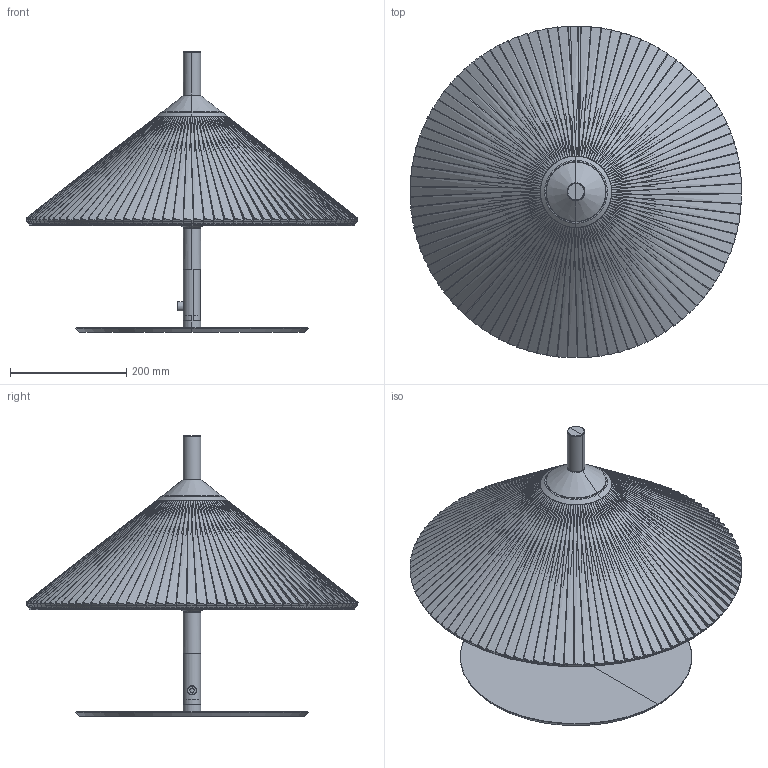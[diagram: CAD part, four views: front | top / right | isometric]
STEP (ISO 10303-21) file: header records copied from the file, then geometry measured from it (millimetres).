
FILE_DESCRIPTION(/* description */ (''),/* implementation_level */ '2;1');
FILE_NAME(/* name */ 'C:\Users\FrancoSartori\Documents\FARO\01_En Proceso\00_SAIGON\03_Publicación\71576-01.stp',/* time_stamp */ '2021-04-30T12:58:36+02:00',/* author */ ('FrancoSartori'),/* organization */ (''),/* preprocessor_version */ 'ST-DEVELOPER v18.1',/* originating_system */ 'AutoCAD Mechanical',/* authorisation */ '');
FILE_SCHEMA (('AUTOMOTIVE_DESIGN { 1 0 10303 214 3 1 1 }'));
Length unit declared in the file: millimetre
Products named in the file (4): Product; 71576 - HUE-482591-_3D_; 71585 - 71585 Shade R55-481351-_3D_; 71577_HUE - base-474969-_3D_
Assembly tree (3 placements, depth 2):
  Product
    71576 - HUE-482591-_3D_
    71585 - 71585 Shade R55-481351-_3D_
    71577_HUE - base-474969-_3D_
Bounding box: 572.21 x 572.26 x 484.16 mm (x, y, z)
Volume: 5382504 mm3; surface area: 2145440 mm2
Topology: 112 solids, 112 shells, 1095 faces, 2461 edges, 1480 vertices
Faces by surface type: plane 462, bspline 208, cone 189, torus 132, cylinder 104
Entity records: 35655 total; most frequent: CARTESIAN_POINT 13976, ORIENTED_EDGE 4718, DIRECTION 3593, EDGE_CURVE 2359, VERTEX_POINT 1480, AXIS2_PLACEMENT_3D 1221, LINE 1151, VECTOR 1151
